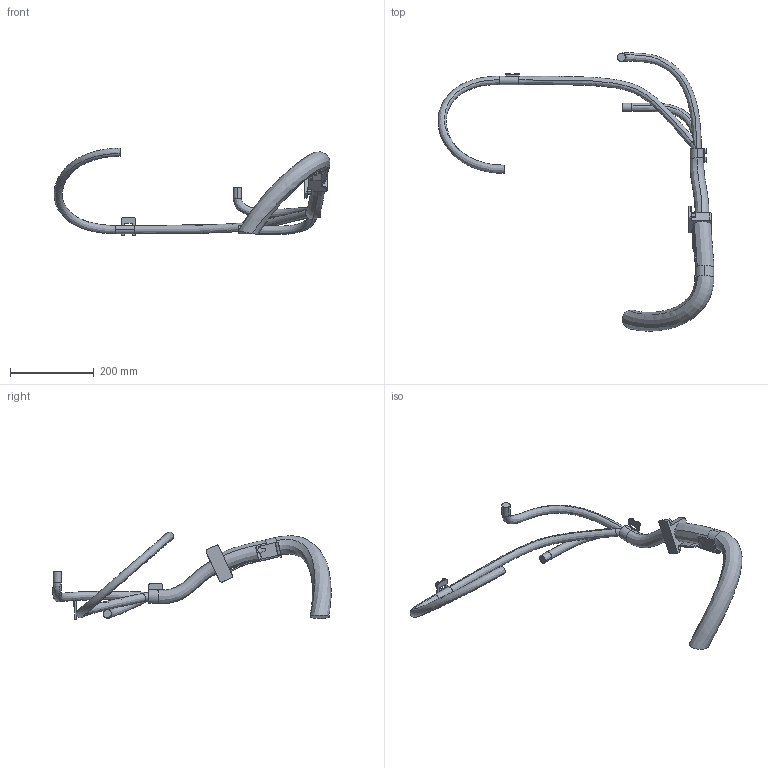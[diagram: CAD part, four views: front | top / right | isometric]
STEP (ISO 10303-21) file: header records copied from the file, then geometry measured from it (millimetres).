
FILE_DESCRIPTION (( 'STEP AP214' ), '1' );
FILE_NAME ('IRB6730-LID_190kg-310_OC_00_LINK03m_CABLE.step', '2026-05-26T09:16:53', ( '' ), ( '' ), 'SwSTEP 2.0', 'SolidWorks 2024', '' );
FILE_SCHEMA (( 'AUTOMOTIVE_DESIGN' ));
Length unit declared in the file: millimetre
Products named in the file (1): IRB6730-LID_190kg-310_OC_00_LINK03m_CABLE
Bounding box: 660.26 x 666.03 x 209.99 mm (x, y, z)
Volume: 1438877.2 mm3; surface area: 207947.5 mm2
Topology: 1 solids, 2 shells, 222 faces, 589 edges, 376 vertices
Faces by surface type: plane 117, cylinder 79, bspline 26
Entity records: 15254 total; most frequent: CARTESIAN_POINT 7451, ORIENTED_EDGE 1178, DIRECTION 1038, EDGE_CURVE 589, VERTEX_POINT 376, AXIS2_PLACEMENT_3D 361, VECTOR 316, LINE 316
